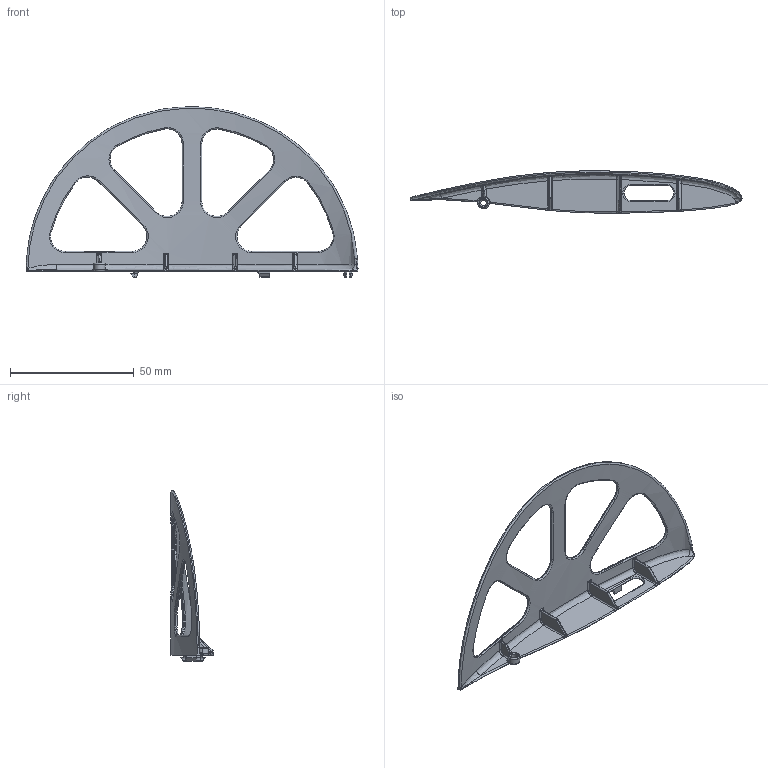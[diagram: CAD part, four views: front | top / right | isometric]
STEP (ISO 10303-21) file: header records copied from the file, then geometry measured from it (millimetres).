
FILE_DESCRIPTION (( 'STEP AP203' ), '1' );
FILE_NAME ('06-12-007-00.STEP', '2019-02-25T09:15:07', ( '' ), ( '' ), 'SwSTEP 2.0', 'SolidWorks 2014', '' );
FILE_SCHEMA (( 'CONFIG_CONTROL_DESIGN' ));
Length unit declared in the file: millimetre
Products named in the file (1): 06-12-007-00
Bounding box: 134.04 x 17.01 x 68.88 mm (x, y, z)
Volume: 6117.5 mm3; surface area: 11806.1 mm2
Topology: 1 solids, 1 shells, 298 faces, 724 edges, 421 vertices
Faces by surface type: bspline 117, cylinder 82, plane 67, torus 23, sphere 6, cone 3
Entity records: 14619 total; most frequent: CARTESIAN_POINT 8539, ORIENTED_EDGE 1428, DIRECTION 1008, EDGE_CURVE 714, VERTEX_POINT 420, AXIS2_PLACEMENT_3D 398, EDGE_LOOP 312, FACE_OUTER_BOUND 298
